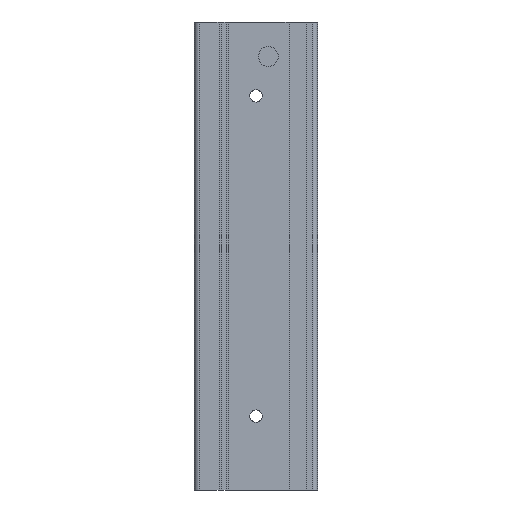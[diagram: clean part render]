
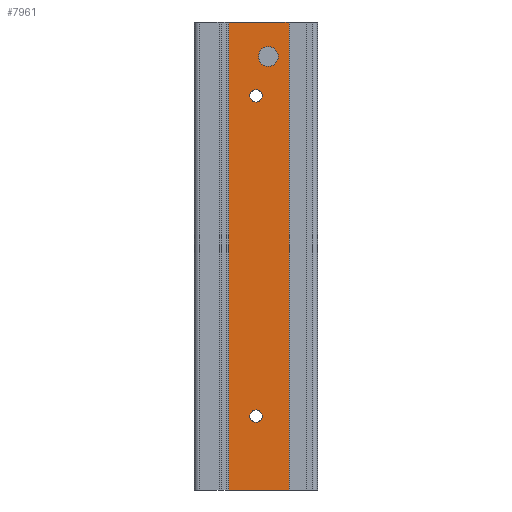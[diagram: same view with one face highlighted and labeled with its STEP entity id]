
A CAD part, left-side view. The second image highlights one B-rep face of the part: STEP entity #7961.
In plain terms, the highlighted planar face has unit normal (-1, 0, 0).
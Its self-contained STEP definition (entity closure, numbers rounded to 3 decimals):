
#298 = EDGE_LOOP ( 'NONE', ( #8250, #502 ) ) ;
#502 = ORIENTED_EDGE ( 'NONE', *, *, #3164, .F. ) ;
#566 = EDGE_CURVE ( 'NONE', #6196, #12333, #6311, .T. ) ;
#658 = CIRCLE ( 'NONE', #3689, 2. ) ;
#799 = FACE_BOUND ( 'NONE', #298, .T. ) ;
#925 = VECTOR ( 'NONE', #12803, 1000. ) ;
#1261 = PLANE ( 'NONE',  #1334 ) ;
#1334 = AXIS2_PLACEMENT_3D ( 'NONE', #4597, #4986, #1510 ) ;
#1348 = CIRCLE ( 'NONE', #13318, 2. ) ;
#1409 = CARTESIAN_POINT ( 'NONE',  ( -35., 12.5, -31.25 ) ) ;
#1510 = DIRECTION ( 'NONE',  ( 0., 0., 1. ) ) ;
#1625 = DIRECTION ( 'NONE',  ( 0., 0., -1. ) ) ;
#1734 = CARTESIAN_POINT ( 'NONE',  ( -35., 12.5, 32.5 ) ) ;
#1962 = EDGE_CURVE ( 'NONE', #7476, #12927, #12902, .T. ) ;
#1963 = ORIENTED_EDGE ( 'NONE', *, *, #11272, .F. ) ;
#1997 = CARTESIAN_POINT ( 'NONE',  ( -35., 18., 47.5 ) ) ;
#2063 = CARTESIAN_POINT ( 'NONE',  ( -35., 12.5, 32.5 ) ) ;
#2192 = DIRECTION ( 'NONE',  ( -1., 0., 0. ) ) ;
#2268 = CARTESIAN_POINT ( 'NONE',  ( -35., 10., 40.5 ) ) ;
#2295 = CARTESIAN_POINT ( 'NONE',  ( -35., 12.5, -33.75 ) ) ;
#2371 = CIRCLE ( 'NONE', #11716, 1.25 ) ;
#2436 = VERTEX_POINT ( 'NONE', #5544 ) ;
#2883 = DIRECTION ( 'NONE',  ( -1., 0., 0. ) ) ;
#2911 = EDGE_CURVE ( 'NONE', #13500, #12927, #3083, .T. ) ;
#2928 = ORIENTED_EDGE ( 'NONE', *, *, #12931, .F. ) ;
#2985 = EDGE_CURVE ( 'NONE', #7334, #2436, #658, .T. ) ;
#3083 = LINE ( 'NONE', #10313, #10105 ) ;
#3164 = EDGE_CURVE ( 'NONE', #12333, #6196, #9941, .T. ) ;
#3250 = DIRECTION ( 'NONE',  ( 0., 0., 1. ) ) ;
#3487 = EDGE_LOOP ( 'NONE', ( #4805, #5973 ) ) ;
#3689 = AXIS2_PLACEMENT_3D ( 'NONE', #12721, #2883, #9608 ) ;
#3767 = EDGE_CURVE ( 'NONE', #9868, #4129, #12327, .T. ) ;
#3792 = CARTESIAN_POINT ( 'NONE',  ( -35., 10., 42.5 ) ) ;
#4074 = EDGE_CURVE ( 'NONE', #4129, #9868, #2371, .T. ) ;
#4085 = FACE_OUTER_BOUND ( 'NONE', #7455, .T. ) ;
#4129 = VERTEX_POINT ( 'NONE', #1409 ) ;
#4400 = CARTESIAN_POINT ( 'NONE',  ( -35., 12.5, -32.5 ) ) ;
#4451 = DIRECTION ( 'NONE',  ( 0., 1., 0. ) ) ;
#4597 = CARTESIAN_POINT ( 'NONE',  ( -35., 0., 47.5 ) ) ;
#4805 = ORIENTED_EDGE ( 'NONE', *, *, #4074, .F. ) ;
#4986 = DIRECTION ( 'NONE',  ( -1., 0., 0. ) ) ;
#5117 = ORIENTED_EDGE ( 'NONE', *, *, #2911, .T. ) ;
#5209 = DIRECTION ( 'NONE',  ( -1., 0., 0. ) ) ;
#5251 = CARTESIAN_POINT ( 'NONE',  ( -35., 5.8, 47.5 ) ) ;
#5537 = CARTESIAN_POINT ( 'NONE',  ( -35., 18., -47.5 ) ) ;
#5544 = CARTESIAN_POINT ( 'NONE',  ( -35., 10., 38.5 ) ) ;
#5973 = ORIENTED_EDGE ( 'NONE', *, *, #3767, .F. ) ;
#6009 = AXIS2_PLACEMENT_3D ( 'NONE', #2063, #13060, #7629 ) ;
#6011 = CARTESIAN_POINT ( 'NONE',  ( -35., 12.5, 33.75 ) ) ;
#6196 = VERTEX_POINT ( 'NONE', #6011 ) ;
#6311 = CIRCLE ( 'NONE', #13454, 1.25 ) ;
#6581 = VECTOR ( 'NONE', #12924, 1000. ) ;
#6893 = DIRECTION ( 'NONE',  ( 0., 0., 1. ) ) ;
#6939 = CARTESIAN_POINT ( 'NONE',  ( -35., 12.5, -32.5 ) ) ;
#7334 = VERTEX_POINT ( 'NONE', #3792 ) ;
#7455 = EDGE_LOOP ( 'NONE', ( #12579, #1963, #11982, #5117 ) ) ;
#7476 = VERTEX_POINT ( 'NONE', #12612 ) ;
#7559 = EDGE_CURVE ( 'NONE', #13116, #13500, #14170, .T. ) ;
#7629 = DIRECTION ( 'NONE',  ( 0., 0., 1. ) ) ;
#7888 = CARTESIAN_POINT ( 'NONE',  ( -35., 0., -47.5 ) ) ;
#7961 = ADVANCED_FACE ( 'NONE', ( #10606, #13877, #799, #4085 ), #1261, .T. ) ;
#8250 = ORIENTED_EDGE ( 'NONE', *, *, #566, .F. ) ;
#8435 = VECTOR ( 'NONE', #4451, 1000. ) ;
#8771 = AXIS2_PLACEMENT_3D ( 'NONE', #4400, #2192, #3250 ) ;
#8839 = DIRECTION ( 'NONE',  ( 0., 0., 1. ) ) ;
#9019 = CARTESIAN_POINT ( 'NONE',  ( -35., 5.8, 47.5 ) ) ;
#9421 = DIRECTION ( 'NONE',  ( 0., 0., 1. ) ) ;
#9453 = EDGE_LOOP ( 'NONE', ( #2928, #11912 ) ) ;
#9608 = DIRECTION ( 'NONE',  ( 0., 0., 1. ) ) ;
#9724 = CARTESIAN_POINT ( 'NONE',  ( -35., 12.5, 31.25 ) ) ;
#9868 = VERTEX_POINT ( 'NONE', #2295 ) ;
#9941 = CIRCLE ( 'NONE', #6009, 1.25 ) ;
#10105 = VECTOR ( 'NONE', #1625, 1000. ) ;
#10313 = CARTESIAN_POINT ( 'NONE',  ( -35., 18., 47.5 ) ) ;
#10606 = FACE_BOUND ( 'NONE', #9453, .T. ) ;
#10956 = DIRECTION ( 'NONE',  ( -1., 0., 0. ) ) ;
#11272 = EDGE_CURVE ( 'NONE', #13116, #7476, #11720, .T. ) ;
#11716 = AXIS2_PLACEMENT_3D ( 'NONE', #6939, #13453, #6893 ) ;
#11720 = LINE ( 'NONE', #5251, #6581 ) ;
#11912 = ORIENTED_EDGE ( 'NONE', *, *, #2985, .F. ) ;
#11982 = ORIENTED_EDGE ( 'NONE', *, *, #7559, .T. ) ;
#12327 = CIRCLE ( 'NONE', #8771, 1.25 ) ;
#12333 = VERTEX_POINT ( 'NONE', #9724 ) ;
#12579 = ORIENTED_EDGE ( 'NONE', *, *, #1962, .F. ) ;
#12612 = CARTESIAN_POINT ( 'NONE',  ( -35., 5.8, -47.5 ) ) ;
#12710 = CARTESIAN_POINT ( 'NONE',  ( -35., 0., 47.5 ) ) ;
#12721 = CARTESIAN_POINT ( 'NONE',  ( -35., 10., 40.5 ) ) ;
#12803 = DIRECTION ( 'NONE',  ( 0., 1., 0. ) ) ;
#12902 = LINE ( 'NONE', #7888, #8435 ) ;
#12924 = DIRECTION ( 'NONE',  ( 0., 0., -1. ) ) ;
#12927 = VERTEX_POINT ( 'NONE', #5537 ) ;
#12931 = EDGE_CURVE ( 'NONE', #2436, #7334, #1348, .T. ) ;
#13060 = DIRECTION ( 'NONE',  ( -1., 0., 0. ) ) ;
#13116 = VERTEX_POINT ( 'NONE', #9019 ) ;
#13318 = AXIS2_PLACEMENT_3D ( 'NONE', #2268, #10956, #8839 ) ;
#13453 = DIRECTION ( 'NONE',  ( -1., 0., 0. ) ) ;
#13454 = AXIS2_PLACEMENT_3D ( 'NONE', #1734, #5209, #9421 ) ;
#13500 = VERTEX_POINT ( 'NONE', #1997 ) ;
#13877 = FACE_BOUND ( 'NONE', #3487, .T. ) ;
#14170 = LINE ( 'NONE', #12710, #925 ) ;
